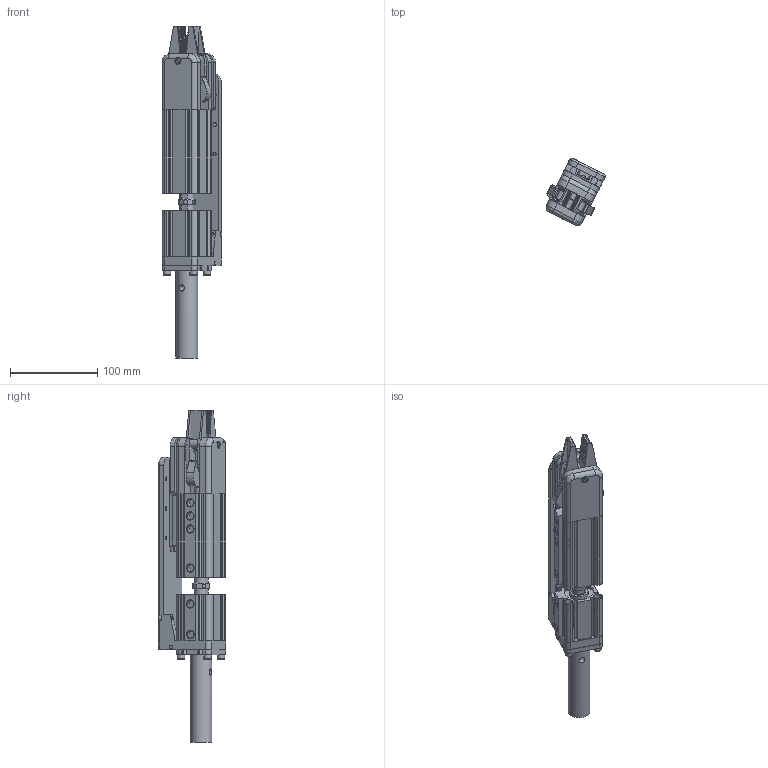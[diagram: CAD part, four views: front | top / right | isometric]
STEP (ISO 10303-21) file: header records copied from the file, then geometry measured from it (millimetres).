
FILE_DESCRIPTION(/* description */ (''),/* implementation_level */ '2;1');
FILE_NAME(/* name */ '8Y00468-GRP32A-3020--25.stp',/* time_stamp */ '2023-02-22T13:47:40+08:00',/* author */ (''),/* organization */ (''),/* preprocessor_version */ 'ST-DEVELOPER v16',/* originating_system */ 'SIEMENS PLM Software NX 10.0',/* authorisation */ '');
FILE_SCHEMA (('AUTOMOTIVE_DESIGN { 1 0 10303 214 3 1 1 1 }'));
Length unit declared in the file: millimetre
Products named in the file (1): _model41
Bounding box: 68.83 x 77.89 x 380.95 mm (x, y, z)
Volume: 482111.6 mm3; surface area: 195847.9 mm2
Topology: 24 solids, 45 shells, 1439 faces, 3563 edges, 2269 vertices
Faces by surface type: plane 901, cylinder 349, cone 150, revolution 25, sphere 14
Full cylindrical faces by diameter (mm): 2.5 x2, 3.3 x6, 4 x12, 4.1 x1, 4.2 x16, 4.5 x8, 4.917 x8, 5 x8, 5.2 x12, 5.5 x8, 6 x15, 6.5 x1, 6.647 x3, 6.8 x1, 7 x14, 8 x11, 8.5 x9, 8.566 x6, 8.6 x1, 9 x16, 10 x4, 13 x2, 13.5 x1, 14 x1, 15 x4, 16 x5, 17 x12, 20 x3, 21 x3, 25 x1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
Entity records: 50382 total; most frequent: CARTESIAN_POINT 7790, DIRECTION 6811, ORIENTED_EDGE 6056, EDGE_CURVE 3028, AXIS2_PLACEMENT_3D 2423, VERTEX_POINT 2125, EDGE_LOOP 1966, LINE 1940
